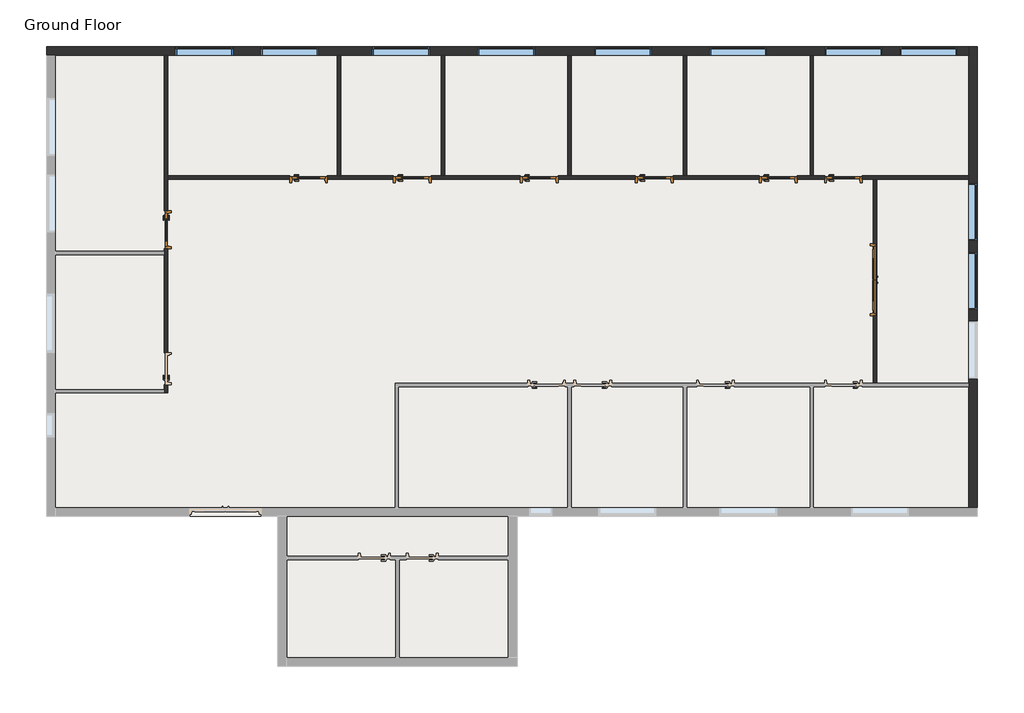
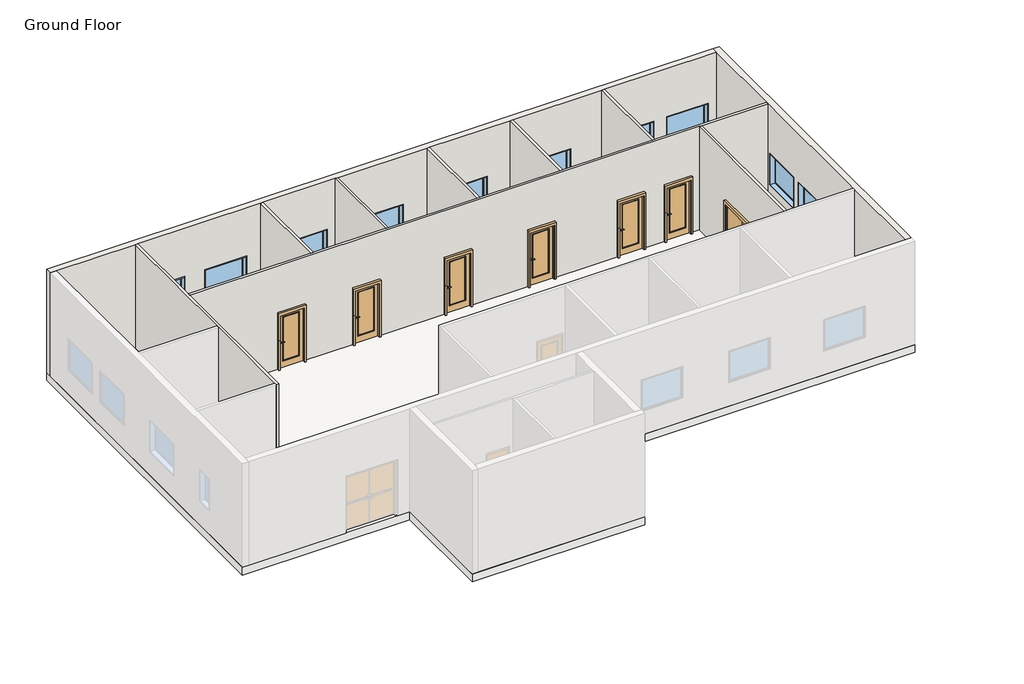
# One storey, part 2 of 2: 10 walls, 10 windows, 8 doors, 1 slab.
"""IFC4 building model written with IfcOpenShell, lengths in millimetres."""

from ifc_helpers import new_model, si_unit, frame, origin, origin_with_axes, place, context, project, spatial, polyline, outline, extrude, faceted_brep, transform, mapped, element, save
from components import m_door_exterior_double_1800_x_2100mm_96612cad, m_door_passage_single_full_lite_900_x_2100mm_2f8a5465, m_door_passage_single_full_lite_900_x_2100mm_803eef12, m_fixed_1524_x1220_mm_ccb4a2ee

model = new_model("IFC4")

# Units and contexts
model_context = context("Model", 3, world=origin())
ifc_project = project(units=[si_unit("LENGTHUNIT", "METRE", prefix="MILLI")], contexts=[model_context])

# Site, building, storey
site = spatial("IfcSite", under=ifc_project)
building = spatial("IfcBuilding", under=site)
storey = spatial("IfcBuildingStorey", under=building, Name="Ground Floor", Elevation=0.0)

# Doors
placement = place(None, origin())
m_door_exterior_double_1800_x_2100mm_shape = m_door_exterior_double_1800_x_2100mm_96612cad(model_context)
element("IfcDoor", 1, ObjectType="M_Door-Exterior-Double : 1800 x 2100mm", at=placement, inside=storey, context=model_context, shape_type="MappedRepresentation", body=[
    mapped(m_door_exterior_double_1800_x_2100mm_shape, transform((4089.1198191, 76.0584762, 0.0), x_axis=(0.0, 1.0, 0.0), y_axis=(-1.0, 0.0, 0.0), z_axis=(0.0, 0.0, 1.0))),
])
m_door_passage_single_full_lite_900_x_2100mm_shape = m_door_passage_single_full_lite_900_x_2100mm_2f8a5465(model_context)
element("IfcDoor", 2, ObjectType="M_Door-Passage-Single-Full_Lite : 900 x 2100mm", at=placement, inside=storey, context=model_context, shape_type="MappedRepresentation", body=[
    mapped(m_door_passage_single_full_lite_900_x_2100mm_shape, transform((3257.0698191, 2768.1084762, 0.0), x_axis=(1.0, 0.0, 0.0), y_axis=(0.0, 1.0, 0.0), z_axis=(0.0, 0.0, 1.0))),
])
element("IfcDoor", 3, ObjectType="M_Door-Passage-Single-Full_Lite : 900 x 2100mm", at=placement, inside=storey, context=model_context, shape_type="MappedRepresentation", body=[
    mapped(m_door_passage_single_full_lite_900_x_2100mm_shape, transform((1536.0698191, 2768.1084762, 0.0), x_axis=(1.0, 0.0, 0.0), y_axis=(0.0, 1.0, 0.0), z_axis=(0.0, 0.0, 1.0))),
])
element("IfcDoor", 4, ObjectType="M_Door-Passage-Single-Full_Lite : 900 x 2100mm", at=placement, inside=storey, context=model_context, shape_type="MappedRepresentation", body=[
    mapped(m_door_passage_single_full_lite_900_x_2100mm_shape, transform((-1740.7301809, 2768.1084762, 0.0), x_axis=(1.0, 0.0, 0.0), y_axis=(0.0, 1.0, 0.0), z_axis=(0.0, 0.0, 1.0))),
])
element("IfcDoor", 5, ObjectType="M_Door-Passage-Single-Full_Lite : 900 x 2100mm", at=placement, inside=storey, context=model_context, shape_type="MappedRepresentation", body=[
    mapped(m_door_passage_single_full_lite_900_x_2100mm_shape, transform((-4788.7301809, 2768.1084762, 0.0), x_axis=(1.0, 0.0, 0.0), y_axis=(0.0, 1.0, 0.0), z_axis=(0.0, 0.0, 1.0))),
])
element("IfcDoor", 6, ObjectType="M_Door-Passage-Single-Full_Lite : 900 x 2100mm", at=placement, inside=storey, context=model_context, shape_type="MappedRepresentation", body=[
    mapped(m_door_passage_single_full_lite_900_x_2100mm_shape, transform((-8141.5301809, 2768.1084762, 0.0), x_axis=(1.0, 0.0, 0.0), y_axis=(0.0, 1.0, 0.0), z_axis=(0.0, 0.0, 1.0))),
])
element("IfcDoor", 7, ObjectType="M_Door-Passage-Single-Full_Lite : 900 x 2100mm", at=placement, inside=storey, context=model_context, shape_type="MappedRepresentation", body=[
    mapped(m_door_passage_single_full_lite_900_x_2100mm_shape, transform((-10884.7301809, 2768.1084762, 0.0), x_axis=(1.0, 0.0, 0.0), y_axis=(0.0, 1.0, 0.0), z_axis=(0.0, 0.0, 1.0))),
])
m_door_passage_single_full_lite_900_x_2100mm_2_shape = m_door_passage_single_full_lite_900_x_2100mm_803eef12(model_context)
element("IfcDoor", 8, ObjectType="M_Door-Passage-Single-Full_Lite : 900 x 2100mm", at=placement, inside=storey, context=model_context, shape_type="MappedRepresentation", body=[
    mapped(m_door_passage_single_full_lite_900_x_2100mm_2_shape, transform((-14643.3801809, 1394.8584762, 0.0), x_axis=(0.0, -1.0, 0.0), y_axis=(1.0, 0.0, 0.0), z_axis=(0.0, 0.0, 1.0))),
])

# Slab
element("IfcSlab", 9, ObjectType="Generic 300mm", at=placement, inside=storey, context=model_context, shape_type="SweptSolid", body=[
    extrude(outline(polyline([(6801.2698191, 6242.2584762), (6801.2698191, -6179.7415238), (-5371.7301809, -6179.7415238), (-5371.7301809, -10142.1415238), (-11697.7301809, -10142.1415238), (-11697.7301809, -6179.7415238), (-17812.7301809, -6179.7415238), (-17812.7301809, 6242.2584762), (6801.2698191, 6242.2584762)])), frame((0.0, 0.0, -300.0), z_axis=(0.0, 0.0, 1.0), x_axis=(1.0, 0.0, 0.0)), (0.0, 0.0, 1.0), 300.0),
])

# Walls
element("IfcWall", 10, ObjectType="Generic - 230mm", at=placement, inside=storey, context=model_context, shape_type="Brep", body=[
    faceted_brep([(-17812.7301809, 6012.2584762, 0.0), (-17582.7301809, 6012.2584762, 0.0), (-14694.7301809, 6012.2584762, 0.0), (-14604.7301809, 6012.2584762, 0.0), (-10122.7301809, 6012.2584762, 0.0), (-10032.7301809, 6012.2584762, 0.0), (-7379.5301809, 6012.2584762, 0.0), (-7289.5301809, 6012.2584762, 0.0), (-4026.7301809, 6012.2584762, 0.0), (-3936.7301809, 6012.2584762, 0.0), (-978.7301809, 6012.2584762, 0.0), (-888.7301809, 6012.2584762, 0.0), (2374.0698191, 6012.2584762, 0.0), (2464.0698191, 6012.2584762, 0.0), (6571.2698191, 6012.2584762, 0.0), (6571.2698191, 6012.2584762, 4000.0), (2464.0698191, 6012.2584762, 4000.0), (2374.0698191, 6012.2584762, 4000.0), (-888.7301809, 6012.2584762, 4000.0), (-978.7301809, 6012.2584762, 4000.0), (-3936.7301809, 6012.2584762, 4000.0), (-4026.7301809, 6012.2584762, 4000.0), (-7289.5301809, 6012.2584762, 4000.0), (-7379.5301809, 6012.2584762, 4000.0), (-10032.7301809, 6012.2584762, 4000.0), (-10122.7301809, 6012.2584762, 4000.0), (-14604.7301809, 6012.2584762, 4000.0), (-14694.7301809, 6012.2584762, 4000.0), (-17582.7301809, 6012.2584762, 4000.0), (-17812.7301809, 6012.2584762, 4000.0), (-14404.7301809, 6012.2584762, 915.0), (-14404.7301809, 6012.2584762, 2135.0), (-12880.7301809, 6012.2584762, 2135.0), (-12880.7301809, 6012.2584762, 915.0), (-12146.7301809, 6012.2584762, 915.0), (-12146.7301809, 6012.2584762, 2135.0), (-10622.7301809, 6012.2584762, 2135.0), (-10622.7301809, 6012.2584762, 915.0), (-9203.5301809, 6012.2584762, 915.0), (-9203.5301809, 6012.2584762, 2135.0), (-7679.5301809, 6012.2584762, 2135.0), (-7679.5301809, 6012.2584762, 915.0), (-6420.1301809, 6012.2584762, 915.0), (-6420.1301809, 6012.2584762, 2135.0), (-4896.1301809, 6012.2584762, 2135.0), (-4896.1301809, 6012.2584762, 915.0), (-3336.7301809, 6012.2584762, 915.0), (-3336.7301809, 6012.2584762, 2135.0), (-1812.7301809, 6012.2584762, 2135.0), (-1812.7301809, 6012.2584762, 915.0), (-288.7301809, 6012.2584762, 915.0), (-288.7301809, 6012.2584762, 2135.0), (1235.2698191, 6012.2584762, 2135.0), (1235.2698191, 6012.2584762, 915.0), (2764.0698191, 6012.2584762, 915.0), (2764.0698191, 6012.2584762, 2135.0), (4288.0698191, 6012.2584762, 2135.0), (4288.0698191, 6012.2584762, 915.0), (4747.2698191, 6012.2584762, 915.0), (4747.2698191, 6012.2584762, 2135.0), (6271.2698191, 6012.2584762, 2135.0), (6271.2698191, 6012.2584762, 915.0), (-17812.7301809, 6242.2584762, 0.0), (-17812.7301809, 6242.2584762, 4000.0), (6571.2698191, 6242.2584762, 4000.0), (6571.2698191, 6242.2584762, 0.0), (-14404.7301809, 6242.2584762, 915.0), (-12880.7301809, 6242.2584762, 915.0), (-12880.7301809, 6242.2584762, 2135.0), (-14404.7301809, 6242.2584762, 2135.0), (-12146.7301809, 6242.2584762, 915.0), (-10622.7301809, 6242.2584762, 915.0), (-10622.7301809, 6242.2584762, 2135.0), (-12146.7301809, 6242.2584762, 2135.0), (-9203.5301809, 6242.2584762, 915.0), (-7679.5301809, 6242.2584762, 915.0), (-7679.5301809, 6242.2584762, 2135.0), (-9203.5301809, 6242.2584762, 2135.0), (-6420.1301809, 6242.2584762, 915.0), (-4896.1301809, 6242.2584762, 915.0), (-4896.1301809, 6242.2584762, 2135.0), (-6420.1301809, 6242.2584762, 2135.0), (-3336.7301809, 6242.2584762, 915.0), (-1812.7301809, 6242.2584762, 915.0), (-1812.7301809, 6242.2584762, 2135.0), (-3336.7301809, 6242.2584762, 2135.0), (-288.7301809, 6242.2584762, 915.0), (1235.2698191, 6242.2584762, 915.0), (1235.2698191, 6242.2584762, 2135.0), (-288.7301809, 6242.2584762, 2135.0), (2764.0698191, 6242.2584762, 915.0), (4288.0698191, 6242.2584762, 915.0), (4288.0698191, 6242.2584762, 2135.0), (2764.0698191, 6242.2584762, 2135.0), (4747.2698191, 6242.2584762, 915.0), (6271.2698191, 6242.2584762, 915.0), (6271.2698191, 6242.2584762, 2135.0), (4747.2698191, 6242.2584762, 2135.0)], [[[0, 1, 2, 3, 4, 5, 6, 7, 8, 9, 10, 11, 12, 13, 14, 15, 16, 17, 18, 19, 20, 21, 22, 23, 24, 25, 26, 27, 28, 29], [30, 31, 32, 33], [34, 35, 36, 37], [38, 39, 40, 41], [42, 43, 44, 45], [46, 47, 48, 49], [50, 51, 52, 53], [54, 55, 56, 57], [58, 59, 60, 61]], [[62, 63, 64, 65], [66, 67, 68, 69], [70, 71, 72, 73], [74, 75, 76, 77], [78, 79, 80, 81], [82, 83, 84, 85], [86, 87, 88, 89], [90, 91, 92, 93], [94, 95, 96, 97]], [[14, 13, 12, 11, 10, 9, 8, 7, 6, 5, 4, 3, 2, 1, 0, 62, 65]], [[29, 28, 27, 26, 25, 24, 23, 22, 21, 20, 19, 18, 17, 16, 15, 64, 63]], [[0, 29, 63, 62]], [[15, 14, 65, 64]], [[31, 30, 66, 69]], [[32, 31, 69, 68]], [[33, 32, 68, 67]], [[30, 33, 67, 66]], [[35, 34, 70, 73]], [[36, 35, 73, 72]], [[37, 36, 72, 71]], [[34, 37, 71, 70]], [[39, 38, 74, 77]], [[40, 39, 77, 76]], [[41, 40, 76, 75]], [[38, 41, 75, 74]], [[43, 42, 78, 81]], [[44, 43, 81, 80]], [[45, 44, 80, 79]], [[42, 45, 79, 78]], [[47, 46, 82, 85]], [[48, 47, 85, 84]], [[49, 48, 84, 83]], [[46, 49, 83, 82]], [[51, 50, 86, 89]], [[52, 51, 89, 88]], [[53, 52, 88, 87]], [[50, 53, 87, 86]], [[55, 54, 90, 93]], [[56, 55, 93, 92]], [[57, 56, 92, 91]], [[54, 57, 91, 90]], [[59, 58, 94, 97]], [[60, 59, 97, 96]], [[61, 60, 96, 95]], [[58, 61, 95, 94]]]),
])
element("IfcWall", 11, ObjectType="Generic - 230mm", at=placement, inside=storey, context=model_context, shape_type="Brep", body=[
    faceted_brep([(6571.2698191, 6242.2584762, 0.0), (6571.2698191, 6012.2584762, 0.0), (6571.2698191, 2819.4584762, 0.0), (6571.2698191, 2729.4584762, 0.0), (6571.2698191, -2666.9415238, 0.0), (6571.2698191, -2756.9415238, 0.0), (6571.2698191, -5949.7415238, 0.0), (6571.2698191, -5949.7415238, 4000.0), (6571.2698191, -2756.9415238, 4000.0), (6571.2698191, -2666.9415238, 4000.0), (6571.2698191, 2729.4584762, 4000.0), (6571.2698191, 2819.4584762, 4000.0), (6571.2698191, 6012.2584762, 4000.0), (6571.2698191, 6242.2584762, 4000.0), (6571.2698191, 2629.4584762, 915.0), (6571.2698191, 2629.4584762, 2135.0), (6571.2698191, 1105.4584762, 2135.0), (6571.2698191, 1105.4584762, 915.0), (6571.2698191, 805.4584762, 915.0), (6571.2698191, 805.4584762, 2135.0), (6571.2698191, -718.5415238, 2135.0), (6571.2698191, -718.5415238, 915.0), (6571.2698191, -1018.5415238, 915.0), (6571.2698191, -1018.5415238, 2135.0), (6571.2698191, -2542.5415238, 2135.0), (6571.2698191, -2542.5415238, 915.0), (6801.2698191, 6242.2584762, 0.0), (6801.2698191, 6242.2584762, 4000.0), (6801.2698191, -5949.7415238, 4000.0), (6801.2698191, -5949.7415238, 0.0), (6801.2698191, 2629.4584762, 915.0), (6801.2698191, 1105.4584762, 915.0), (6801.2698191, 1105.4584762, 2135.0), (6801.2698191, 2629.4584762, 2135.0), (6801.2698191, 805.4584762, 915.0), (6801.2698191, -718.5415238, 915.0), (6801.2698191, -718.5415238, 2135.0), (6801.2698191, 805.4584762, 2135.0), (6801.2698191, -1018.5415238, 915.0), (6801.2698191, -2542.5415238, 915.0), (6801.2698191, -2542.5415238, 2135.0), (6801.2698191, -1018.5415238, 2135.0)], [[[0, 1, 2, 3, 4, 5, 6, 7, 8, 9, 10, 11, 12, 13], [14, 15, 16, 17], [18, 19, 20, 21], [22, 23, 24, 25]], [[26, 27, 28, 29], [30, 31, 32, 33], [34, 35, 36, 37], [38, 39, 40, 41]], [[6, 5, 4, 3, 2, 1, 0, 26, 29]], [[13, 12, 11, 10, 9, 8, 7, 28, 27]], [[0, 13, 27, 26]], [[7, 6, 29, 28]], [[15, 14, 30, 33]], [[16, 15, 33, 32]], [[17, 16, 32, 31]], [[14, 17, 31, 30]], [[19, 18, 34, 37]], [[20, 19, 37, 36]], [[21, 20, 36, 35]], [[18, 21, 35, 34]], [[23, 22, 38, 41]], [[24, 23, 41, 40]], [[25, 24, 40, 39]], [[22, 25, 39, 38]]]),
])
element("IfcWall", 12, ObjectType="Generic - 90mm Brick", at=placement, inside=storey, context=model_context, shape_type="Brep", body=[
    faceted_brep([(-14694.7301809, -2917.7415238, 4000.0), (-14694.7301809, -2827.7415238, 4000.0), (-14694.7301809, 739.8584762, 4000.0), (-14694.7301809, 829.8584762, 4000.0), (-14694.7301809, 6012.2584762, 4000.0), (-14694.7301809, 6012.2584762, 0.0), (-14694.7301809, 1894.8584762, 0.0), (-14694.7301809, 1894.8584762, 2200.0), (-14694.7301809, 894.8584762, 2200.0), (-14694.7301809, 894.8584762, 0.0), (-14694.7301809, 829.8584762, 0.0), (-14694.7301809, 739.8584762, 0.0), (-14694.7301809, -1847.7415238, 0.0), (-14694.7301809, -1847.7415238, 2200.0), (-14694.7301809, -2697.7415238, 2200.0), (-14694.7301809, -2697.7415238, 0.0), (-14694.7301809, -2827.7415238, 0.0), (-14694.7301809, -2917.7415238, 0.0), (-14604.7301809, 6012.2584762, 4000.0), (-14604.7301809, 2819.4584762, 4000.0), (-14604.7301809, 2729.4584762, 4000.0), (-14604.7301809, -2917.7415238, 4000.0), (-14604.7301809, -2917.7415238, 0.0), (-14604.7301809, -2697.7415238, 0.0), (-14604.7301809, -2697.7415238, 2200.0), (-14604.7301809, -1847.7415238, 2200.0), (-14604.7301809, -1847.7415238, 0.0), (-14604.7301809, 894.8584762, 0.0), (-14604.7301809, 894.8584762, 2200.0), (-14604.7301809, 1894.8584762, 2200.0), (-14604.7301809, 1894.8584762, 0.0), (-14604.7301809, 2729.4584762, 0.0), (-14604.7301809, 2819.4584762, 0.0), (-14604.7301809, 6012.2584762, 0.0)], [[[0, 1, 2, 3, 4, 5, 6, 7, 8, 9, 10, 11, 12, 13, 14, 15, 16, 17]], [[18, 19, 20, 21, 22, 23, 24, 25, 26, 27, 28, 29, 30, 31, 32, 33]], [[5, 33, 32, 31, 30, 6]], [[22, 17, 16, 15, 23]], [[26, 12, 11, 10, 9, 27]], [[4, 3, 2, 1, 0, 21, 20, 19, 18]], [[5, 4, 18, 33]], [[0, 17, 22, 21]], [[25, 13, 12, 26]], [[13, 25, 24, 14]], [[14, 24, 23, 15]], [[8, 28, 27, 9]], [[28, 8, 7, 29]], [[29, 7, 6, 30]]]),
])
element("IfcWall", 13, ObjectType="Generic - 90mm Brick", at=placement, inside=storey, context=model_context, shape_type="Brep", body=[
    faceted_brep([(6571.2698191, 2729.4584762, 4000.0), (4140.4698191, 2729.4584762, 4000.0), (4050.4698191, 2729.4584762, 4000.0), (-14604.7301809, 2729.4584762, 4000.0), (-14604.7301809, 2729.4584762, 0.0), (-11384.7301809, 2729.4584762, 0.0), (-11384.7301809, 2729.4584762, 2200.0), (-10384.7301809, 2729.4584762, 2200.0), (-10384.7301809, 2729.4584762, 0.0), (-8641.5301809, 2729.4584762, 0.0), (-8641.5301809, 2729.4584762, 2200.0), (-7641.5301809, 2729.4584762, 2200.0), (-7641.5301809, 2729.4584762, 0.0), (-5288.7301809, 2729.4584762, 0.0), (-5288.7301809, 2729.4584762, 2200.0), (-4288.7301809, 2729.4584762, 2200.0), (-4288.7301809, 2729.4584762, 0.0), (-2240.7301809, 2729.4584762, 0.0), (-2240.7301809, 2729.4584762, 2200.0), (-1240.7301809, 2729.4584762, 2200.0), (-1240.7301809, 2729.4584762, 0.0), (1036.0698191, 2729.4584762, 0.0), (1036.0698191, 2729.4584762, 2200.0), (2036.0698191, 2729.4584762, 2200.0), (2036.0698191, 2729.4584762, 0.0), (2757.0698191, 2729.4584762, 0.0), (2757.0698191, 2729.4584762, 2200.0), (3757.0698191, 2729.4584762, 2200.0), (3757.0698191, 2729.4584762, 0.0), (4050.4698191, 2729.4584762, 0.0), (4140.4698191, 2729.4584762, 0.0), (6571.2698191, 2729.4584762, 0.0), (-14604.7301809, 2819.4584762, 4000.0), (-10122.7301809, 2819.4584762, 4000.0), (-10032.7301809, 2819.4584762, 4000.0), (-7379.5301809, 2819.4584762, 4000.0), (-7289.5301809, 2819.4584762, 4000.0), (-4026.7301809, 2819.4584762, 4000.0), (-3936.7301809, 2819.4584762, 4000.0), (-978.7301809, 2819.4584762, 4000.0), (-888.7301809, 2819.4584762, 4000.0), (2374.0698191, 2819.4584762, 4000.0), (2464.0698191, 2819.4584762, 4000.0), (6571.2698191, 2819.4584762, 4000.0), (6571.2698191, 2819.4584762, 0.0), (3757.0698191, 2819.4584762, 0.0), (3757.0698191, 2819.4584762, 2200.0), (2757.0698191, 2819.4584762, 2200.0), (2757.0698191, 2819.4584762, 0.0), (2464.0698191, 2819.4584762, 0.0), (2374.0698191, 2819.4584762, 0.0), (2036.0698191, 2819.4584762, 0.0), (2036.0698191, 2819.4584762, 2200.0), (1036.0698191, 2819.4584762, 2200.0), (1036.0698191, 2819.4584762, 0.0), (-888.7301809, 2819.4584762, 0.0), (-978.7301809, 2819.4584762, 0.0), (-1240.7301809, 2819.4584762, 0.0), (-1240.7301809, 2819.4584762, 2200.0), (-2240.7301809, 2819.4584762, 2200.0), (-2240.7301809, 2819.4584762, 0.0), (-3936.7301809, 2819.4584762, 0.0), (-4026.7301809, 2819.4584762, 0.0), (-4288.7301809, 2819.4584762, 0.0), (-4288.7301809, 2819.4584762, 2200.0), (-5288.7301809, 2819.4584762, 2200.0), (-5288.7301809, 2819.4584762, 0.0), (-7289.5301809, 2819.4584762, 0.0), (-7379.5301809, 2819.4584762, 0.0), (-7641.5301809, 2819.4584762, 0.0), (-7641.5301809, 2819.4584762, 2200.0), (-8641.5301809, 2819.4584762, 2200.0), (-8641.5301809, 2819.4584762, 0.0), (-10032.7301809, 2819.4584762, 0.0), (-10122.7301809, 2819.4584762, 0.0), (-10384.7301809, 2819.4584762, 0.0), (-10384.7301809, 2819.4584762, 2200.0), (-11384.7301809, 2819.4584762, 2200.0), (-11384.7301809, 2819.4584762, 0.0), (-14604.7301809, 2819.4584762, 0.0)], [[[0, 1, 2, 3, 4, 5, 6, 7, 8, 9, 10, 11, 12, 13, 14, 15, 16, 17, 18, 19, 20, 21, 22, 23, 24, 25, 26, 27, 28, 29, 30, 31]], [[32, 33, 34, 35, 36, 37, 38, 39, 40, 41, 42, 43, 44, 45, 46, 47, 48, 49, 50, 51, 52, 53, 54, 55, 56, 57, 58, 59, 60, 61, 62, 63, 64, 65, 66, 67, 68, 69, 70, 71, 72, 73, 74, 75, 76, 77, 78, 79]], [[4, 79, 78, 5]], [[44, 31, 30, 29, 28, 45]], [[48, 25, 24, 51, 50, 49]], [[54, 21, 20, 57, 56, 55]], [[60, 17, 16, 63, 62, 61]], [[66, 13, 12, 69, 68, 67]], [[72, 9, 8, 75, 74, 73]], [[3, 2, 1, 0, 43, 42, 41, 40, 39, 38, 37, 36, 35, 34, 33, 32]], [[4, 3, 32, 79]], [[0, 31, 44, 43]], [[27, 46, 45, 28]], [[46, 27, 26, 47]], [[47, 26, 25, 48]], [[23, 52, 51, 24]], [[52, 23, 22, 53]], [[53, 22, 21, 54]], [[19, 58, 57, 20]], [[58, 19, 18, 59]], [[59, 18, 17, 60]], [[15, 64, 63, 16]], [[64, 15, 14, 65]], [[65, 14, 13, 66]], [[11, 70, 69, 12]], [[70, 11, 10, 71]], [[71, 10, 9, 72]], [[7, 76, 75, 8]], [[76, 7, 6, 77]], [[77, 6, 5, 78]]]),
])
element("IfcWall", 14, ObjectType="Generic - 90mm Brick", at=placement, inside=storey, context=model_context, shape_type="SweptSolid", body=[
    extrude(outline(polyline([(-10122.7301809, 2819.4584762), (-10122.7301809, 6012.2584762), (-10032.7301809, 6012.2584762), (-10032.7301809, 2819.4584762), (-10122.7301809, 2819.4584762)])), origin_with_axes(), (0.0, 0.0, 1.0), 4000.0),
])
element("IfcWall", 15, ObjectType="Generic - 90mm Brick", at=placement, inside=storey, context=model_context, shape_type="SweptSolid", body=[
    extrude(outline(polyline([(-7379.5301809, 2819.4584762), (-7379.5301809, 6012.2584762), (-7289.5301809, 6012.2584762), (-7289.5301809, 2819.4584762), (-7379.5301809, 2819.4584762)])), origin_with_axes(), (0.0, 0.0, 1.0), 4000.0),
])
element("IfcWall", 16, ObjectType="Generic - 90mm Brick", at=placement, inside=storey, context=model_context, shape_type="SweptSolid", body=[
    extrude(outline(polyline([(-4026.7301809, 2819.4584762), (-4026.7301809, 6012.2584762), (-3936.7301809, 6012.2584762), (-3936.7301809, 2819.4584762), (-4026.7301809, 2819.4584762)])), origin_with_axes(), (0.0, 0.0, 1.0), 4000.0),
])
element("IfcWall", 17, ObjectType="Generic - 90mm Brick", at=placement, inside=storey, context=model_context, shape_type="SweptSolid", body=[
    extrude(outline(polyline([(-978.7301809, 2819.4584762), (-978.7301809, 6012.2584762), (-888.7301809, 6012.2584762), (-888.7301809, 2819.4584762), (-978.7301809, 2819.4584762)])), origin_with_axes(), (0.0, 0.0, 1.0), 4000.0),
])
element("IfcWall", 18, ObjectType="Generic - 90mm Brick", at=placement, inside=storey, context=model_context, shape_type="SweptSolid", body=[
    extrude(outline(polyline([(2374.0698191, 2819.4584762), (2374.0698191, 6012.2584762), (2464.0698191, 6012.2584762), (2464.0698191, 2819.4584762), (2374.0698191, 2819.4584762)])), origin_with_axes(), (0.0, 0.0, 1.0), 4000.0),
])
element("IfcWall", 19, ObjectType="Generic - 90mm Brick", at=placement, inside=storey, context=model_context, shape_type="SweptSolid", body=[
    extrude(outline(polyline([(-2666.9415238, 4000.0), (2729.4584762, 4000.0), (2729.4584762, 0.0), (1026.0584762, 0.0), (1026.0584762, 2200.0), (-873.9415238, 2200.0), (-873.9415238, 0.0), (-2666.9415238, 0.0), (-2666.9415238, 4000.0)])), frame((4050.4698191, 0.0, 0.0), z_axis=(1.0, 0.0, 0.0), x_axis=(0.0, 1.0, 0.0)), (0.0, 0.0, 1.0), 90.0),
])

# Windows
m_fixed_1524_x1220_mm_shape = m_fixed_1524_x1220_mm_ccb4a2ee(model_context)
element("IfcWindow", 20, ObjectType="M_Fixed : 1524 x1220 mm", at=placement, inside=storey, context=model_context, shape_type="MappedRepresentation", body=[
    mapped(m_fixed_1524_x1220_mm_shape, transform((-13642.7301809, 6114.2584762, 0.0), x_axis=(1.0, 0.0, 0.0), y_axis=(0.0, 1.0, 0.0), z_axis=(0.0, 0.0, 1.0))),
])
element("IfcWindow", 21, ObjectType="M_Fixed : 1524 x1220 mm", at=placement, inside=storey, context=model_context, shape_type="MappedRepresentation", body=[
    mapped(m_fixed_1524_x1220_mm_shape, transform((-11384.7301809, 6114.2584762, 0.0), x_axis=(1.0, 0.0, 0.0), y_axis=(0.0, 1.0, 0.0), z_axis=(0.0, 0.0, 1.0))),
])
element("IfcWindow", 22, ObjectType="M_Fixed : 1524 x1220 mm", at=placement, inside=storey, context=model_context, shape_type="MappedRepresentation", body=[
    mapped(m_fixed_1524_x1220_mm_shape, transform((-8441.5301809, 6114.2584762, 0.0), x_axis=(1.0, 0.0, 0.0), y_axis=(0.0, 1.0, 0.0), z_axis=(0.0, 0.0, 1.0))),
])
element("IfcWindow", 23, ObjectType="M_Fixed : 1524 x1220 mm", at=placement, inside=storey, context=model_context, shape_type="MappedRepresentation", body=[
    mapped(m_fixed_1524_x1220_mm_shape, transform((-5658.1301809, 6114.2584762, 0.0), x_axis=(1.0, 0.0, 0.0), y_axis=(0.0, 1.0, 0.0), z_axis=(0.0, 0.0, 1.0))),
])
element("IfcWindow", 24, ObjectType="M_Fixed : 1524 x1220 mm", at=placement, inside=storey, context=model_context, shape_type="MappedRepresentation", body=[
    mapped(m_fixed_1524_x1220_mm_shape, transform((-2574.7301809, 6114.2584762, 0.0), x_axis=(1.0, 0.0, 0.0), y_axis=(0.0, 1.0, 0.0), z_axis=(0.0, 0.0, 1.0))),
])
element("IfcWindow", 25, ObjectType="M_Fixed : 1524 x1220 mm", at=placement, inside=storey, context=model_context, shape_type="MappedRepresentation", body=[
    mapped(m_fixed_1524_x1220_mm_shape, transform((473.2698191, 6114.2584762, 0.0), x_axis=(1.0, 0.0, 0.0), y_axis=(0.0, 1.0, 0.0), z_axis=(0.0, 0.0, 1.0))),
])
element("IfcWindow", 26, ObjectType="M_Fixed : 1524 x1220 mm", at=placement, inside=storey, context=model_context, shape_type="MappedRepresentation", body=[
    mapped(m_fixed_1524_x1220_mm_shape, transform((3526.0698191, 6114.2584762, 0.0), x_axis=(1.0, 0.0, 0.0), y_axis=(0.0, 1.0, 0.0), z_axis=(0.0, 0.0, 1.0))),
])
element("IfcWindow", 27, ObjectType="M_Fixed : 1524 x1220 mm", at=placement, inside=storey, context=model_context, shape_type="MappedRepresentation", body=[
    mapped(m_fixed_1524_x1220_mm_shape, transform((5509.2698191, 6114.2584762, 0.0), x_axis=(1.0, 0.0, 0.0), y_axis=(0.0, 1.0, 0.0), z_axis=(0.0, 0.0, 1.0))),
])
element("IfcWindow", 28, ObjectType="M_Fixed : 1524 x1220 mm", at=placement, inside=storey, context=model_context, shape_type="MappedRepresentation", body=[
    mapped(m_fixed_1524_x1220_mm_shape, transform((6673.2698191, 1867.4584762, 0.0), x_axis=(0.0, -1.0, 0.0), y_axis=(1.0, 0.0, 0.0), z_axis=(0.0, 0.0, 1.0))),
])
element("IfcWindow", 29, ObjectType="M_Fixed : 1524 x1220 mm", at=placement, inside=storey, context=model_context, shape_type="MappedRepresentation", body=[
    mapped(m_fixed_1524_x1220_mm_shape, transform((6673.2698191, 43.4584762, 0.0), x_axis=(0.0, -1.0, 0.0), y_axis=(1.0, 0.0, 0.0), z_axis=(0.0, 0.0, 1.0))),
])

save(model, "model.ifc")
